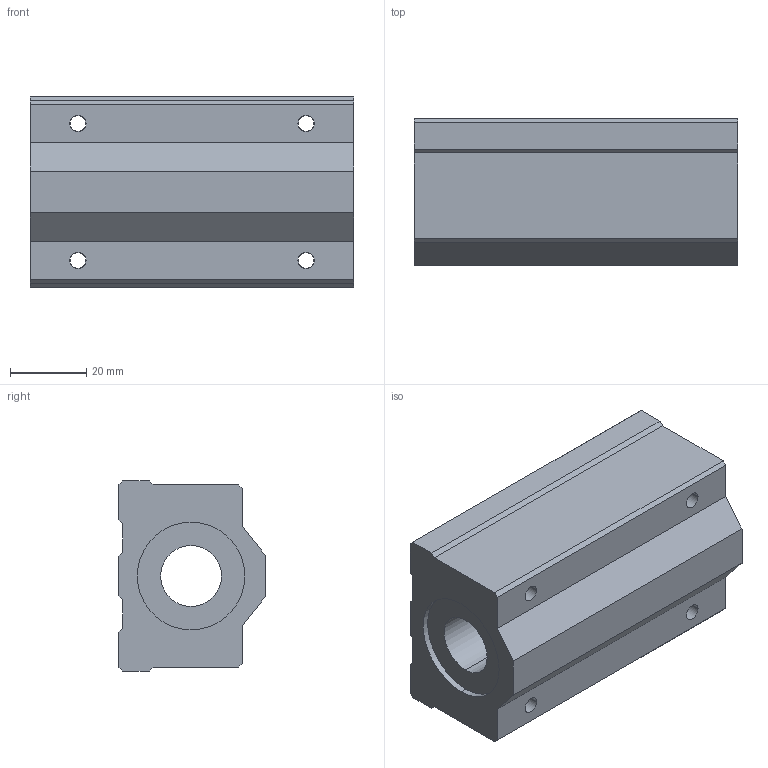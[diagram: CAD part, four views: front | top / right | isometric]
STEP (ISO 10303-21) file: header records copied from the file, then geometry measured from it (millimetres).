
FILE_DESCRIPTION(('FreeCAD Model'),'2;1');
FILE_NAME('Open CASCADE Shape Model','2021-05-03T08:50:50',('Author'),( ''),'Open CASCADE STEP processor 7.5','FreeCAD','Unknown');
FILE_SCHEMA(('AUTOMOTIVE_DESIGN { 1 0 10303 214 1 1 1 1 }'));
Length unit declared in the file: millimetre
Products named in the file (1): ball_bearing_sc16luu
Bounding box: 85 x 38.5 x 50 mm (x, y, z)
Volume: 120271.4 mm3; surface area: 36793.3 mm2
Topology: 1 solids, 2 shells, 102 faces, 245 edges, 161 vertices
Faces by surface type: cylinder 44, plane 42, cone 8, torus 8
Entity records: 6869 total; most frequent: CARTESIAN_POINT 1323, DIRECTION 1008, LINE 528, VECTOR 528, ORIENTED_EDGE 490, PCURVE 490, DEFINITIONAL_REPRESENTATION 490, EDGE_CURVE 245
